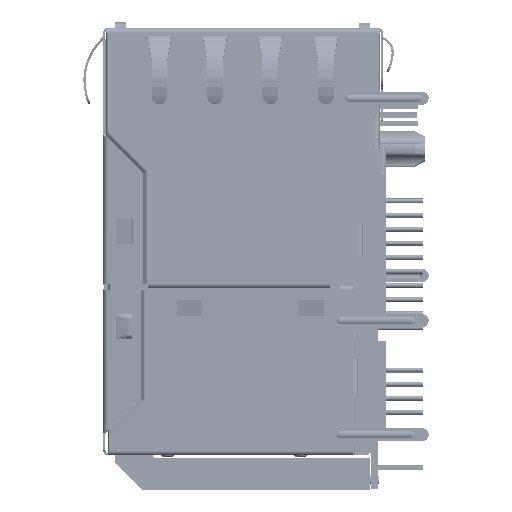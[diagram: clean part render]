
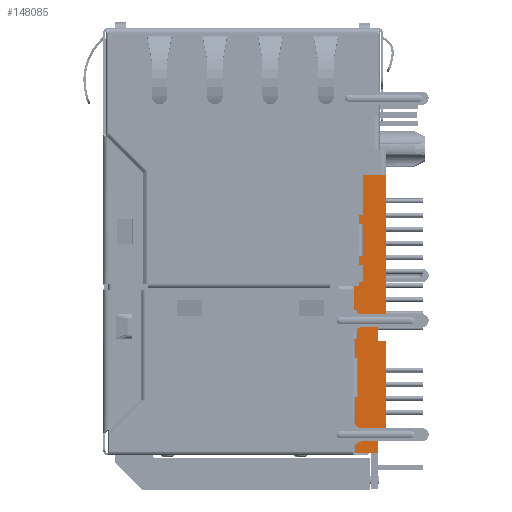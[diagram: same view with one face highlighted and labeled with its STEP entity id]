
A CAD part, left-side view. The second image highlights one B-rep face of the part: STEP entity #148085.
In plain terms, the highlighted planar face has unit normal (-1, 0, 0).
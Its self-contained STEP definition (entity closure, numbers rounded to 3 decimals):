
#23020=DIRECTION('',(0.,-1.,0.));
#23021=VECTOR('',#23020,0.1);
#23022=CARTESIAN_POINT('',(0.8,6.455,-28.));
#23023=LINE('',#23022,#23021);
#23028=DIRECTION('',(0.,1.,0.));
#23029=VECTOR('',#23028,0.75);
#23030=CARTESIAN_POINT('',(0.8,3.5,-36.72));
#23031=LINE('',#23030,#23029);
#23032=DIRECTION('',(0.,0.,1.));
#23033=VECTOR('',#23032,10.05);
#23034=CARTESIAN_POINT('',(0.8,6.355,-38.05));
#23035=LINE('',#23034,#23033);
#23036=DIRECTION('',(0.,-1.,0.));
#23037=VECTOR('',#23036,2.455);
#23038=CARTESIAN_POINT('',(0.8,5.955,-13.));
#23039=LINE('',#23038,#23037);
#23040=DIRECTION('',(0.,1.,0.));
#23041=VECTOR('',#23040,0.75);
#23042=CARTESIAN_POINT('',(0.8,3.5,-26.735));
#23043=LINE('',#23042,#23041);
#23048=DIRECTION('',(0.,0.,1.));
#23049=VECTOR('',#23048,1.265);
#23050=CARTESIAN_POINT('',(0.8,4.25,-28.));
#23051=LINE('',#23050,#23049);
#23072=DIRECTION('',(0.,1.,0.));
#23073=VECTOR('',#23072,0.75);
#23074=CARTESIAN_POINT('',(0.8,3.5,-28.));
#23075=LINE('',#23074,#23073);
#23232=DIRECTION('',(0.,0.,1.));
#23233=VECTOR('',#23232,13.735);
#23234=CARTESIAN_POINT('',(0.8,3.5,-26.735));
#23235=LINE('',#23234,#23233);
#26607=DIRECTION('',(0.,-1.,0.));
#26608=VECTOR('',#26607,2.105);
#26609=CARTESIAN_POINT('',(0.8,6.355,-38.05));
#26610=LINE('',#26609,#26608);
#80304=DIRECTION('',(0.,0.,1.));
#80305=VECTOR('',#80304,1.33);
#80306=CARTESIAN_POINT('',(0.8,4.25,-38.05));
#80307=LINE('',#80306,#80305);
#80316=DIRECTION('',(0.,0.,1.));
#80317=VECTOR('',#80316,8.72);
#80318=CARTESIAN_POINT('',(0.8,3.5,-36.72));
#80319=LINE('',#80318,#80317);
#82600=DIRECTION('',(0.,0.,-1.));
#82601=VECTOR('',#82600,10.);
#82602=CARTESIAN_POINT('',(0.8,5.955,-13.));
#82603=LINE('',#82602,#82601);
#82608=DIRECTION('',(0.,1.,0.));
#82609=VECTOR('',#82608,0.5);
#82610=CARTESIAN_POINT('',(0.8,5.955,-23.));
#82611=LINE('',#82610,#82609);
#82620=DIRECTION('',(0.,0.,-1.));
#82621=VECTOR('',#82620,5.);
#82622=CARTESIAN_POINT('',(0.8,6.455,-23.));
#82623=LINE('',#82622,#82621);
#98046=CARTESIAN_POINT('',(0.8,6.355,-28.));
#98048=VERTEX_POINT('',#98046);
#98052=CARTESIAN_POINT('',(0.8,6.455,-28.));
#98053=VERTEX_POINT('',#98052);
#98054=CARTESIAN_POINT('',(0.8,6.355,-38.05));
#98055=VERTEX_POINT('',#98054);
#98062=CARTESIAN_POINT('',(0.8,4.25,-28.));
#98063=CARTESIAN_POINT('',(0.8,4.25,-26.735));
#98064=VERTEX_POINT('',#98062);
#98065=VERTEX_POINT('',#98063);
#98066=CARTESIAN_POINT('',(0.8,3.5,-28.));
#98067=VERTEX_POINT('',#98066);
#98068=CARTESIAN_POINT('',(0.8,3.5,-36.72));
#98069=VERTEX_POINT('',#98068);
#98070=CARTESIAN_POINT('',(0.8,4.25,-36.72));
#98071=VERTEX_POINT('',#98070);
#98072=CARTESIAN_POINT('',(0.8,4.25,-38.05));
#98073=VERTEX_POINT('',#98072);
#98074=CARTESIAN_POINT('',(0.8,6.455,-23.));
#98075=VERTEX_POINT('',#98074);
#98076=CARTESIAN_POINT('',(0.8,5.955,-23.));
#98077=VERTEX_POINT('',#98076);
#98078=CARTESIAN_POINT('',(0.8,5.955,-13.));
#98079=VERTEX_POINT('',#98078);
#98080=CARTESIAN_POINT('',(0.8,3.5,-13.));
#98081=VERTEX_POINT('',#98080);
#98082=CARTESIAN_POINT('',(0.8,3.5,-26.735));
#98083=VERTEX_POINT('',#98082);
#148052=CARTESIAN_POINT('',(0.8,4.703,-20.5));
#148053=DIRECTION('',(1.,0.,0.));
#148054=DIRECTION('',(0.,0.,-1.));
#148055=AXIS2_PLACEMENT_3D('',#148052,#148053,#148054);
#148056=PLANE('',#148055);
#148058=ORIENTED_EDGE('',*,*,#148057,.F.);
#148060=ORIENTED_EDGE('',*,*,#148059,.F.);
#148062=ORIENTED_EDGE('',*,*,#148061,.F.);
#148064=ORIENTED_EDGE('',*,*,#148063,.T.);
#148066=ORIENTED_EDGE('',*,*,#148065,.F.);
#148068=ORIENTED_EDGE('',*,*,#148067,.F.);
#148069=ORIENTED_EDGE('',*,*,#148039,.T.);
#148070=ORIENTED_EDGE('',*,*,#148028,.F.);
#148072=ORIENTED_EDGE('',*,*,#148071,.F.);
#148074=ORIENTED_EDGE('',*,*,#148073,.F.);
#148076=ORIENTED_EDGE('',*,*,#148075,.F.);
#148078=ORIENTED_EDGE('',*,*,#148077,.T.);
#148080=ORIENTED_EDGE('',*,*,#148079,.F.);
#148082=ORIENTED_EDGE('',*,*,#148081,.T.);
#148083=EDGE_LOOP('',(#148058,#148060,#148062,#148064,#148066,#148068,#148069,
#148070,#148072,#148074,#148076,#148078,#148080,#148082));
#148084=FACE_OUTER_BOUND('',#148083,.F.);
#148085=ADVANCED_FACE('',(#148084),#148056,.F.);
#148028=EDGE_CURVE('',#98053,#98048,#23023,.T.);
#148039=EDGE_CURVE('',#98055,#98048,#23035,.T.);
#148057=EDGE_CURVE('',#98064,#98065,#23051,.T.);
#148059=EDGE_CURVE('',#98067,#98064,#23075,.T.);
#148061=EDGE_CURVE('',#98069,#98067,#80319,.T.);
#148063=EDGE_CURVE('',#98069,#98071,#23031,.T.);
#148065=EDGE_CURVE('',#98073,#98071,#80307,.T.);
#148067=EDGE_CURVE('',#98055,#98073,#26610,.T.);
#148071=EDGE_CURVE('',#98075,#98053,#82623,.T.);
#148073=EDGE_CURVE('',#98077,#98075,#82611,.T.);
#148075=EDGE_CURVE('',#98079,#98077,#82603,.T.);
#148077=EDGE_CURVE('',#98079,#98081,#23039,.T.);
#148079=EDGE_CURVE('',#98083,#98081,#23235,.T.);
#148081=EDGE_CURVE('',#98083,#98065,#23043,.T.);
